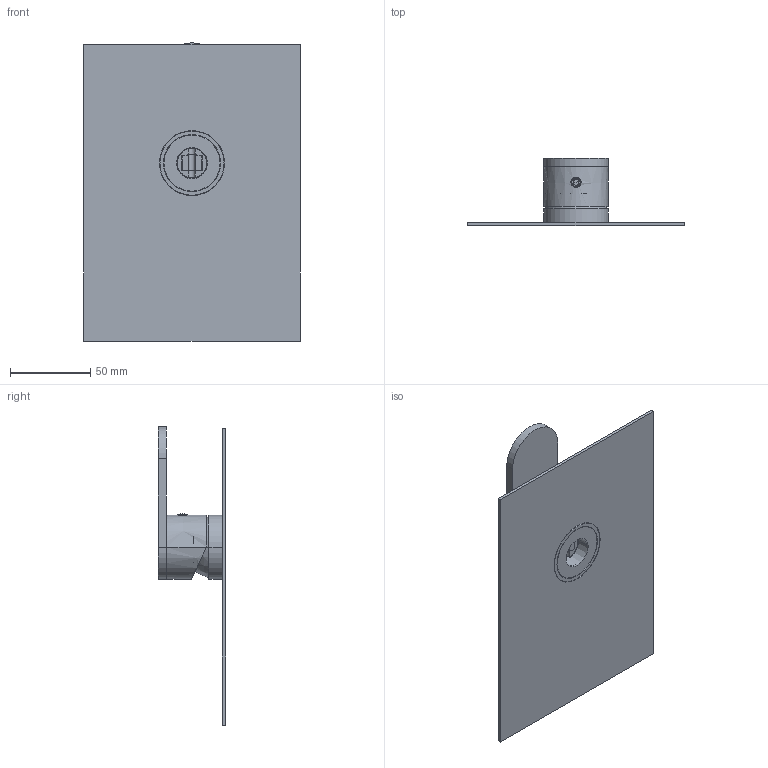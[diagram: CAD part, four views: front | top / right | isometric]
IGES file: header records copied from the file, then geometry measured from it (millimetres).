
Start section:  PTC IGES file: 79521.igs
Global section: file name: 79521.igs; native system: Creo Parametric by PTC Inc.; preprocessor: 2025443; author: carloff; organization: Unknown; date: 20261005.161944; units: millimetre
Bounding box: 135 x 42 x 186 mm (x, y, z)
Surface area: 74089 mm2 (no closed solid volume)
Topology: 0 solids, 0 shells, 414 faces, 2384 edges, 2380 vertices
Faces by surface type: revolution 223, bspline 191
